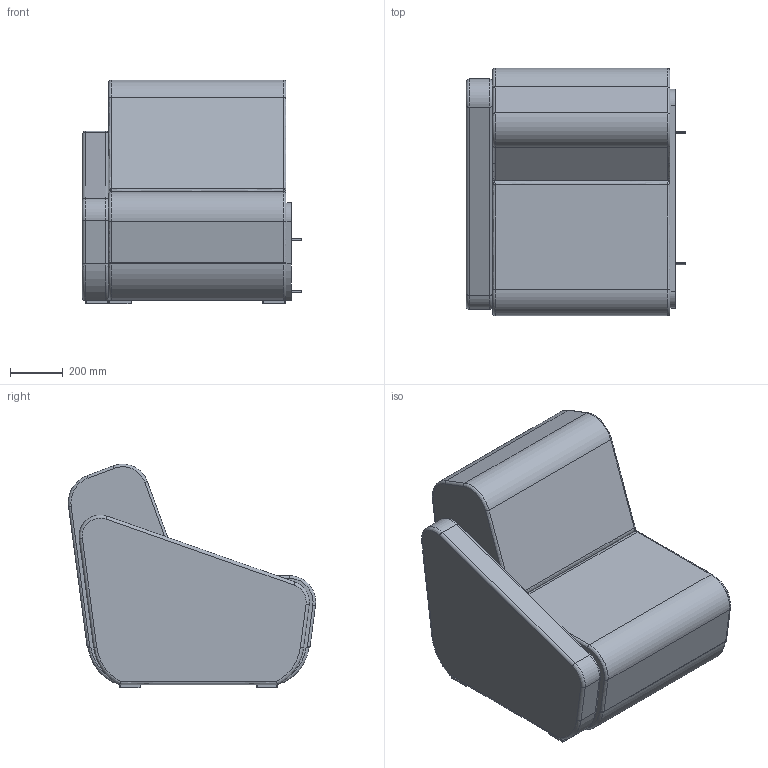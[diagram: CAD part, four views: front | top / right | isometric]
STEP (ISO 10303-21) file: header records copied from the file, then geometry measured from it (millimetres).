
FILE_DESCRIPTION(/* description */ (''),/* implementation_level */ '2;1');
FILE_NAME(/* name */ 'OPDAA6~1',/* time_stamp */ '2015-09-28T21:57:24+02:00',/* author */ (''),/* organization */ (''),/* preprocessor_version */ 'ST-DEVELOPER v15',/* originating_system */ '',/* authorisation */ '');
FILE_SCHEMA (('AUTOMOTIVE_DESIGN'));
Length unit declared in the file: millimetre
Products named in the file (1): Document
Bounding box: 830 x 934.88 x 845.56 mm (x, y, z)
Volume: 6144774 mm3; surface area: 4768586.7 mm2
Topology: 7 solids, 14 shells, 146 faces, 399 edges, 267 vertices
Faces by surface type: bspline 115, plane 31
Entity records: 5657 total; most frequent: CARTESIAN_POINT 3491, ORIENTED_EDGE 668, EDGE_CURVE 386, VERTEX_POINT 260, ADVANCED_FACE 146, FACE_OUTER_BOUND 146, EDGE_LOOP 146, B_SPLINE_CURVE_WITH_KNOTS 90
